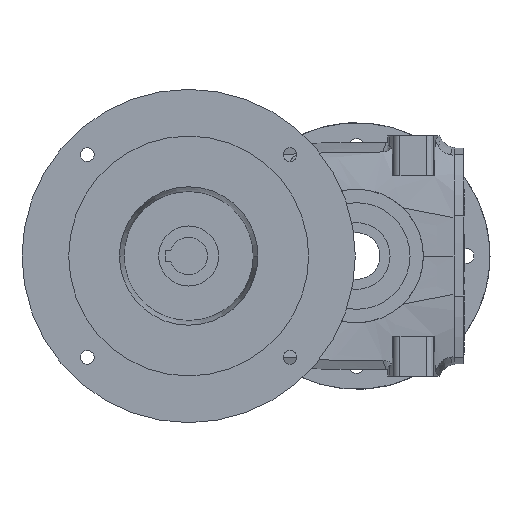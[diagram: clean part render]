
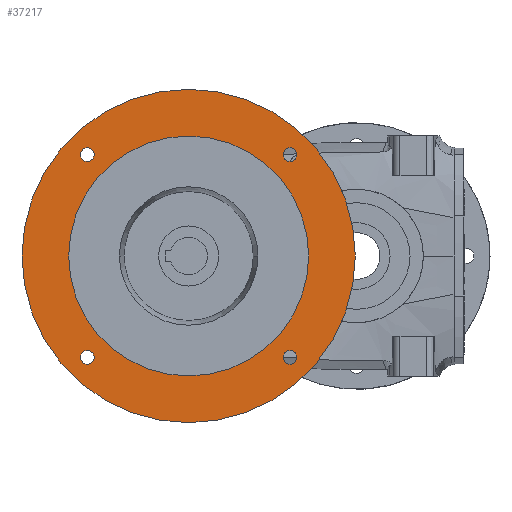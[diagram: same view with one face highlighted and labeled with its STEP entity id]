
A CAD part, left-side view. The second image highlights one B-rep face of the part: STEP entity #37217.
In plain terms, the highlighted planar face has unit normal (-1, 0, 0).
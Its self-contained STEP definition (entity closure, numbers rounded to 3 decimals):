
#36421=CARTESIAN_POINT('',(-147.5,101.5,0.));
#36422=DIRECTION('',(1.,0.,0.));
#36423=DIRECTION('',(0.,0.,1.));
#36424=AXIS2_PLACEMENT_3D('',#36421,#36422,#36423);
#36429=CARTESIAN_POINT('',(-147.5,101.5,0.));
#36430=DIRECTION('',(1.,0.,0.));
#36431=DIRECTION('',(0.,0.,-1.));
#36432=AXIS2_PLACEMENT_3D('',#36429,#36430,#36431);
#36437=CARTESIAN_POINT('',(-147.5,177.514,-76.014));
#36438=DIRECTION('',(-1.,0.,0.));
#36439=DIRECTION('',(0.,1.,0.));
#36440=AXIS2_PLACEMENT_3D('',#36437,#36438,#36439);
#36445=CARTESIAN_POINT('',(-147.5,177.514,-76.014));
#36446=DIRECTION('',(-1.,0.,0.));
#36447=DIRECTION('',(0.,-1.,0.));
#36448=AXIS2_PLACEMENT_3D('',#36445,#36446,#36447);
#36453=CARTESIAN_POINT('',(-147.5,25.486,-76.014));
#36454=DIRECTION('',(-1.,0.,0.));
#36455=DIRECTION('',(0.,1.,0.));
#36456=AXIS2_PLACEMENT_3D('',#36453,#36454,#36455);
#36461=CARTESIAN_POINT('',(-147.5,25.486,-76.014));
#36462=DIRECTION('',(-1.,0.,0.));
#36463=DIRECTION('',(0.,-1.,0.));
#36464=AXIS2_PLACEMENT_3D('',#36461,#36462,#36463);
#36469=CARTESIAN_POINT('',(-147.5,25.486,76.014));
#36470=DIRECTION('',(-1.,0.,0.));
#36471=DIRECTION('',(0.,1.,0.));
#36472=AXIS2_PLACEMENT_3D('',#36469,#36470,#36471);
#36477=CARTESIAN_POINT('',(-147.5,25.486,76.014));
#36478=DIRECTION('',(-1.,0.,0.));
#36479=DIRECTION('',(0.,-1.,0.));
#36480=AXIS2_PLACEMENT_3D('',#36477,#36478,#36479);
#36485=CARTESIAN_POINT('',(-147.5,177.514,76.014));
#36486=DIRECTION('',(-1.,0.,0.));
#36487=DIRECTION('',(0.,1.,0.));
#36488=AXIS2_PLACEMENT_3D('',#36485,#36486,#36487);
#36493=CARTESIAN_POINT('',(-147.5,177.514,76.014));
#36494=DIRECTION('',(-1.,0.,0.));
#36495=DIRECTION('',(0.,-1.,0.));
#36496=AXIS2_PLACEMENT_3D('',#36493,#36494,#36495);
#36501=CARTESIAN_POINT('',(-147.5,101.5,0.));
#36502=DIRECTION('',(-1.,0.,0.));
#36503=DIRECTION('',(0.,0.,1.));
#36504=AXIS2_PLACEMENT_3D('',#36501,#36502,#36503);
#36509=CARTESIAN_POINT('',(-147.5,101.5,0.));
#36510=DIRECTION('',(-1.,0.,0.));
#36511=DIRECTION('',(0.,0.,-1.));
#36512=AXIS2_PLACEMENT_3D('',#36509,#36510,#36511);
#36926=CARTESIAN_POINT('',(-147.5,30.611,-76.014));
#36927=CARTESIAN_POINT('',(-147.5,20.361,-76.014));
#36928=VERTEX_POINT('',#36926);
#36929=VERTEX_POINT('',#36927);
#36930=CARTESIAN_POINT('',(-147.5,101.5,125.));
#36931=CARTESIAN_POINT('',(-147.5,101.5,-125.));
#36932=VERTEX_POINT('',#36930);
#36933=VERTEX_POINT('',#36931);
#36934=CARTESIAN_POINT('',(-147.5,182.639,-76.014));
#36935=CARTESIAN_POINT('',(-147.5,172.389,-76.014));
#36936=VERTEX_POINT('',#36934);
#36937=VERTEX_POINT('',#36935);
#36938=CARTESIAN_POINT('',(-147.5,30.611,76.014));
#36939=CARTESIAN_POINT('',(-147.5,20.361,76.014));
#36940=VERTEX_POINT('',#36938);
#36941=VERTEX_POINT('',#36939);
#36942=CARTESIAN_POINT('',(-147.5,182.639,76.014));
#36943=CARTESIAN_POINT('',(-147.5,172.389,76.014));
#36944=VERTEX_POINT('',#36942);
#36945=VERTEX_POINT('',#36943);
#36946=CARTESIAN_POINT('',(-147.5,101.5,89.988));
#36947=CARTESIAN_POINT('',(-147.5,101.5,-89.988));
#36948=VERTEX_POINT('',#36946);
#36949=VERTEX_POINT('',#36947);
#37178=CARTESIAN_POINT('',(-147.5,101.5,0.));
#37179=DIRECTION('',(1.,0.,0.));
#37180=DIRECTION('',(0.,0.,-1.));
#37181=AXIS2_PLACEMENT_3D('',#37178,#37179,#37180);
#37182=PLANE('',#37181);
#37183=ORIENTED_EDGE('',*,*,#37157,.T.);
#37184=ORIENTED_EDGE('',*,*,#37172,.T.);
#37185=EDGE_LOOP('',(#37183,#37184));
#37186=FACE_OUTER_BOUND('',#37185,.F.);
#37188=ORIENTED_EDGE('',*,*,#37187,.T.);
#37190=ORIENTED_EDGE('',*,*,#37189,.T.);
#37191=EDGE_LOOP('',(#37188,#37190));
#37192=FACE_BOUND('',#37191,.F.);
#37194=ORIENTED_EDGE('',*,*,#37193,.T.);
#37196=ORIENTED_EDGE('',*,*,#37195,.T.);
#37197=EDGE_LOOP('',(#37194,#37196));
#37198=FACE_BOUND('',#37197,.F.);
#37200=ORIENTED_EDGE('',*,*,#37199,.T.);
#37202=ORIENTED_EDGE('',*,*,#37201,.T.);
#37203=EDGE_LOOP('',(#37200,#37202));
#37204=FACE_BOUND('',#37203,.F.);
#37206=ORIENTED_EDGE('',*,*,#37205,.T.);
#37208=ORIENTED_EDGE('',*,*,#37207,.T.);
#37209=EDGE_LOOP('',(#37206,#37208));
#37210=FACE_BOUND('',#37209,.F.);
#37212=ORIENTED_EDGE('',*,*,#37211,.T.);
#37214=ORIENTED_EDGE('',*,*,#37213,.T.);
#37215=EDGE_LOOP('',(#37212,#37214));
#37216=FACE_BOUND('',#37215,.F.);
#37217=ADVANCED_FACE('',(#37186,#37192,#37198,#37204,#37210,#37216),#37182,.F.);
#36425=CIRCLE('',#36424,125.);
#36433=CIRCLE('',#36432,125.);
#36441=CIRCLE('',#36440,5.125);
#36449=CIRCLE('',#36448,5.125);
#36457=CIRCLE('',#36456,5.125);
#36465=CIRCLE('',#36464,5.125);
#36473=CIRCLE('',#36472,5.125);
#36481=CIRCLE('',#36480,5.125);
#36489=CIRCLE('',#36488,5.125);
#36497=CIRCLE('',#36496,5.125);
#36505=CIRCLE('',#36504,89.988);
#36513=CIRCLE('',#36512,89.988);
#37157=EDGE_CURVE('',#36932,#36933,#36425,.T.);
#37172=EDGE_CURVE('',#36933,#36932,#36433,.T.);
#37187=EDGE_CURVE('',#36936,#36937,#36441,.T.);
#37189=EDGE_CURVE('',#36937,#36936,#36449,.T.);
#37193=EDGE_CURVE('',#36928,#36929,#36457,.T.);
#37195=EDGE_CURVE('',#36929,#36928,#36465,.T.);
#37199=EDGE_CURVE('',#36940,#36941,#36473,.T.);
#37201=EDGE_CURVE('',#36941,#36940,#36481,.T.);
#37205=EDGE_CURVE('',#36944,#36945,#36489,.T.);
#37207=EDGE_CURVE('',#36945,#36944,#36497,.T.);
#37211=EDGE_CURVE('',#36948,#36949,#36505,.T.);
#37213=EDGE_CURVE('',#36949,#36948,#36513,.T.);
